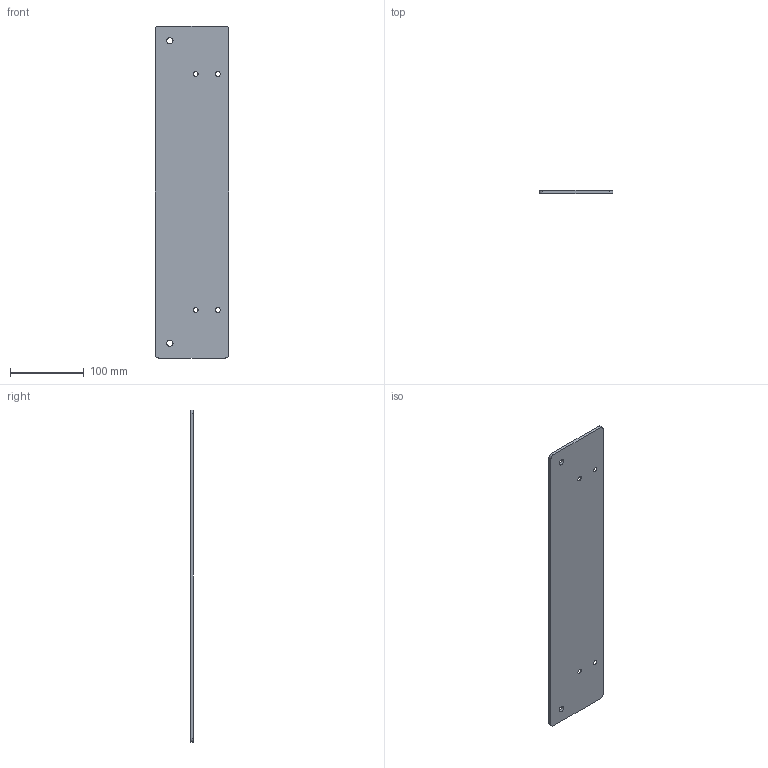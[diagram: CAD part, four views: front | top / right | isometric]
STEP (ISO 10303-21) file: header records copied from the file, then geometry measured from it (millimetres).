
FILE_DESCRIPTION (( 'STEP AP214' ), '1' );
FILE_NAME ('RSI-21001-P-02 (1).STEP', '2023-10-19T06:39:07', ( '' ), ( '' ), 'SwSTEP 2.0', 'SolidWorks 2022', '' );
FILE_SCHEMA (( 'AUTOMOTIVE_DESIGN' ));
Length unit declared in the file: millimetre
Products named in the file (1): RSI-21001-P-02 (1)
Bounding box: 100 x 4 x 450 mm (x, y, z)
Volume: 178007.7 mm3; surface area: 94262.5 mm2
Topology: 1 solids, 1 shells, 22 faces, 60 edges, 40 vertices
Faces by surface type: cylinder 8, cone 8, plane 6
Entity records: 774 total; most frequent: DIRECTION 138, CARTESIAN_POINT 123, ORIENTED_EDGE 120, EDGE_CURVE 60, AXIS2_PLACEMENT_3D 55, VERTEX_POINT 40, EDGE_LOOP 34, CIRCLE 32
